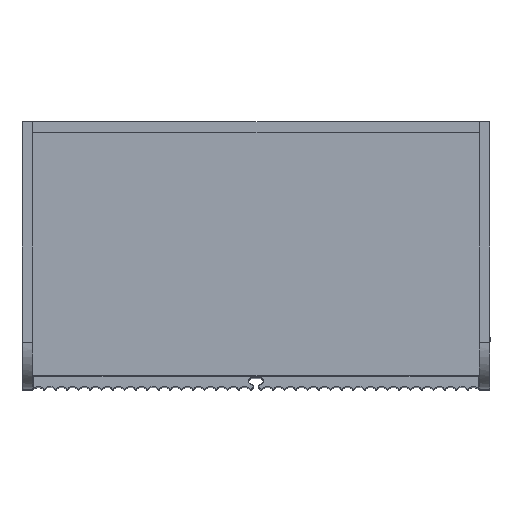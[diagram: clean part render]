
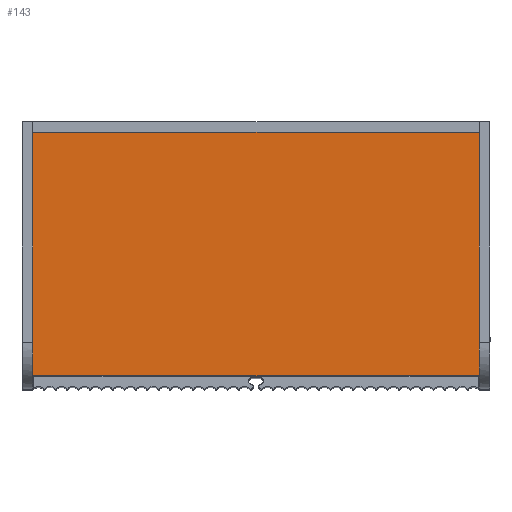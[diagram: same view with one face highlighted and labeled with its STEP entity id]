
A CAD part, top view. The second image highlights one B-rep face of the part: STEP entity #143.
In plain terms, the highlighted planar face has unit normal (0, 0, 1).
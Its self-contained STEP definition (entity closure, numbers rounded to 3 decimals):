
#143=ADVANCED_FACE('',(#321),#2805,.T.);
#321=FACE_OUTER_BOUND('',#499,.T.);
#499=EDGE_LOOP('',(#906,#907,#908,#909));
#906=ORIENTED_EDGE('',*,*,#1674,.T.);
#907=ORIENTED_EDGE('',*,*,#1675,.T.);
#908=ORIENTED_EDGE('',*,*,#1676,.T.);
#909=ORIENTED_EDGE('',*,*,#1677,.T.);
#1674=EDGE_CURVE('',#2538,#2539,#2394,.T.);
#1675=EDGE_CURVE('',#2539,#2540,#2395,.T.);
#1676=EDGE_CURVE('',#2540,#2541,#2396,.T.);
#1677=EDGE_CURVE('',#2541,#2538,#2397,.T.);
#2394=B_SPLINE_CURVE_WITH_KNOTS('',1,(#3735,#3736),.UNSPECIFIED.,.F.,.F.,
(2,2),(0.,700.),.UNSPECIFIED.);
#2395=B_SPLINE_CURVE_WITH_KNOTS('',1,(#3737,#3738),.UNSPECIFIED.,.F.,.F.,
(2,2),(700.,1100.),.UNSPECIFIED.);
#2396=B_SPLINE_CURVE_WITH_KNOTS('',1,(#3739,#3740),.UNSPECIFIED.,.F.,.F.,
(2,2),(1100.,1800.),.UNSPECIFIED.);
#2397=B_SPLINE_CURVE_WITH_KNOTS('',1,(#3741,#3742),.UNSPECIFIED.,.F.,.F.,
(2,2),(1800.,2200.),.UNSPECIFIED.);
#2538=VERTEX_POINT('',#3723);
#2539=VERTEX_POINT('',#3724);
#2540=VERTEX_POINT('',#3725);
#2541=VERTEX_POINT('',#3726);
#2805=PLANE('',#3029);
#3029=AXIS2_PLACEMENT_3D('',#3714,#3168,$);
#3168=DIRECTION('',(0.,0.,1.));
#3714=CARTESIAN_POINT('',(1199.3,917.165,1030.));
#3723=CARTESIAN_POINT('',(1199.3,917.165,1030.));
#3724=CARTESIAN_POINT('',(1867.3,917.165,1030.));
#3725=CARTESIAN_POINT('',(1867.3,1281.165,1030.));
#3726=CARTESIAN_POINT('',(1199.3,1281.165,1030.));
#3735=CARTESIAN_POINT('',(1199.3,917.165,1030.));
#3736=CARTESIAN_POINT('',(1867.3,917.165,1030.));
#3737=CARTESIAN_POINT('',(1867.3,917.165,1030.));
#3738=CARTESIAN_POINT('',(1867.3,1281.165,1030.));
#3739=CARTESIAN_POINT('',(1867.3,1281.165,1030.));
#3740=CARTESIAN_POINT('',(1199.3,1281.165,1030.));
#3741=CARTESIAN_POINT('',(1199.3,1281.165,1030.));
#3742=CARTESIAN_POINT('',(1199.3,917.165,1030.));
